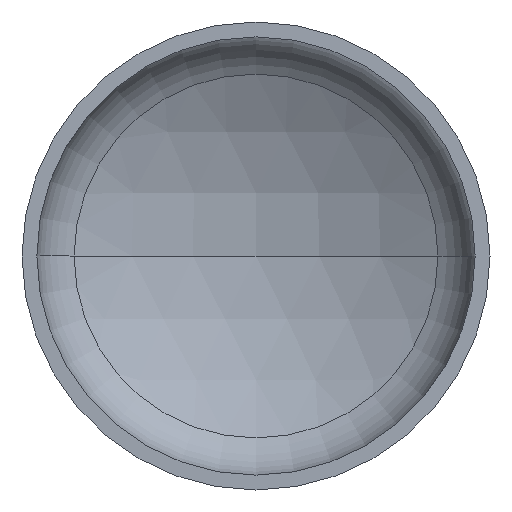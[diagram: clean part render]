
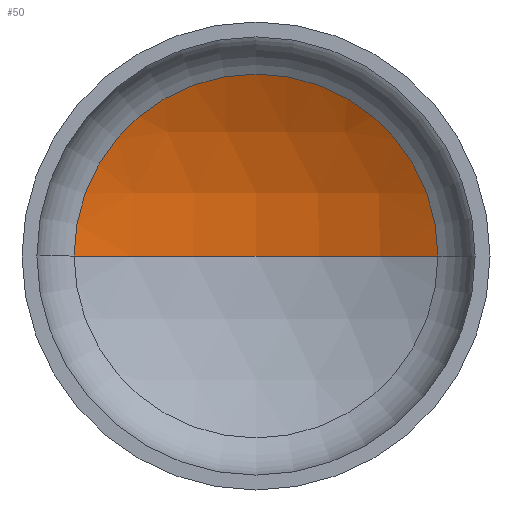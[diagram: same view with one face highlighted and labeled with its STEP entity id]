
A CAD part, front view. The second image highlights one B-rep face of the part: STEP entity #50.
In plain terms, the highlighted spherical face has radius 880 mm.
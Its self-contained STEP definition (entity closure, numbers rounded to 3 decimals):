
#7 = EDGE_LOOP ( 'NONE', ( #126, #96, #33 ) ) ;
#14 = AXIS2_PLACEMENT_3D ( 'NONE', #226, #339, #193 ) ;
#15 = AXIS2_PLACEMENT_3D ( 'NONE', #164, #214, #298 ) ;
#33 = ORIENTED_EDGE ( 'NONE', *, *, #153, .T. ) ;
#50 = ADVANCED_FACE ( 'NONE', ( #385 ), #319, .F. ) ;
#57 = AXIS2_PLACEMENT_3D ( 'NONE', #330, #184, #206 ) ;
#59 = VERTEX_POINT ( 'NONE', #232 ) ;
#90 = AXIS2_PLACEMENT_3D ( 'NONE', #243, #281, #374 ) ;
#96 = ORIENTED_EDGE ( 'NONE', *, *, #358, .T. ) ;
#99 = VERTEX_POINT ( 'NONE', #316 ) ;
#126 = ORIENTED_EDGE ( 'NONE', *, *, #367, .F. ) ;
#153 = EDGE_CURVE ( 'NONE', #99, #392, #241, .T. ) ;
#164 = CARTESIAN_POINT ( 'NONE',  ( 0., -510.544, 0. ) ) ;
#184 = DIRECTION ( 'NONE',  ( 0., -1., 0. ) ) ;
#193 = DIRECTION ( 'NONE',  ( 1., 0., 0. ) ) ;
#206 = DIRECTION ( 'NONE',  ( 1., 0., 0. ) ) ;
#214 = DIRECTION ( 'NONE',  ( 0., 0., -1. ) ) ;
#226 = CARTESIAN_POINT ( 'NONE',  ( 0., -510.544, 0. ) ) ;
#232 = CARTESIAN_POINT ( 'NONE',  ( 0., 369.456, 0. ) ) ;
#241 = CIRCLE ( 'NONE', #57, 427.606 ) ;
#243 = CARTESIAN_POINT ( 'NONE',  ( 0., -510.544, 0. ) ) ;
#252 = CARTESIAN_POINT ( 'NONE',  ( -427.606, 258.581, 0. ) ) ;
#281 = DIRECTION ( 'NONE',  ( 0., 0., -1. ) ) ;
#298 = DIRECTION ( 'NONE',  ( -1., 0., 0. ) ) ;
#316 = CARTESIAN_POINT ( 'NONE',  ( 427.606, 258.581, 0. ) ) ;
#319 = SPHERICAL_SURFACE ( 'NONE', #90, 880. ) ;
#322 = CIRCLE ( 'NONE', #15, 880. ) ;
#330 = CARTESIAN_POINT ( 'NONE',  ( 0., 258.581, 0. ) ) ;
#339 = DIRECTION ( 'NONE',  ( 0., 0., 1. ) ) ;
#358 = EDGE_CURVE ( 'NONE', #59, #99, #322, .T. ) ;
#367 = EDGE_CURVE ( 'NONE', #59, #392, #380, .T. ) ;
#374 = DIRECTION ( 'NONE',  ( -1., 0., 0. ) ) ;
#380 = CIRCLE ( 'NONE', #14, 880. ) ;
#385 = FACE_OUTER_BOUND ( 'NONE', #7, .T. ) ;
#392 = VERTEX_POINT ( 'NONE', #252 ) ;
